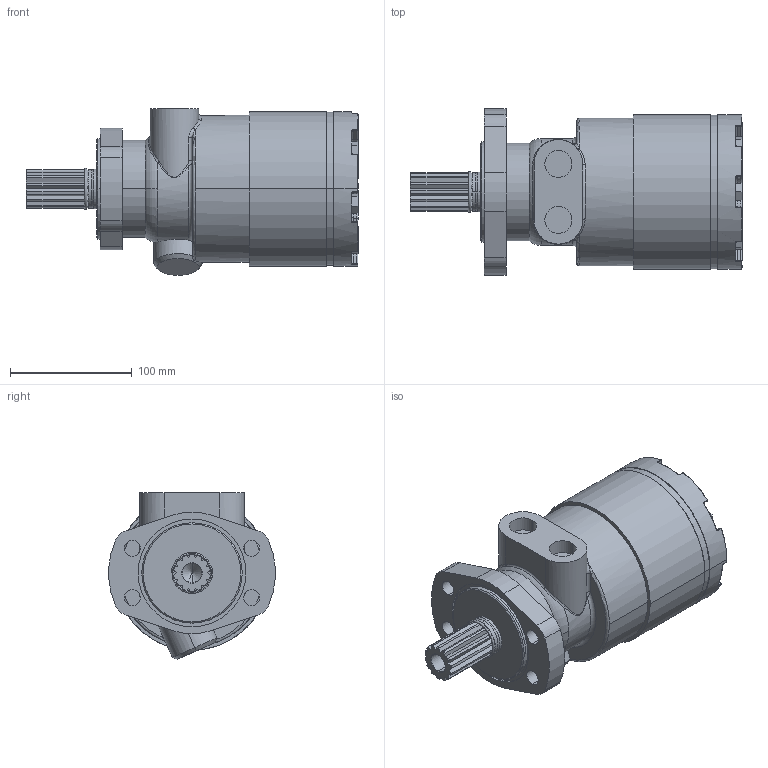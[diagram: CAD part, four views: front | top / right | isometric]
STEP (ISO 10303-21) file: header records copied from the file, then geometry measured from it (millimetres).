
FILE_DESCRIPTION((''),'2;1');
FILE_NAME('40662','2014-02-14T',('carefree'),(''),'PRO/ENGINEER BY PARAMETRIC TECHNOLOGY CORPORATION, 2005030','PRO/ENGINEER BY PARAMETRIC TECHNOLOGY CORPORATION, 2005030','');
FILE_SCHEMA(('CONFIG_CONTROL_DESIGN'));
Length unit declared in the file: millimetre
Products named in the file (1): 40662
Bounding box: 273 x 136.58 x 137.08 mm (x, y, z)
Volume: 2322011.3 mm3; surface area: 134100.8 mm2
Topology: 1 solids, 1 shells, 359 faces, 939 edges, 571 vertices
Faces by surface type: plane 135, cylinder 111, torus 51, bspline 38, cone 24
Entity records: 14481 total; most frequent: CARTESIAN_POINT 5841, ORIENTED_EDGE 1874, DIRECTION 1742, EDGE_CURVE 937, AXIS2_PLACEMENT_3D 657, VERTEX_POINT 571, VECTOR 428, LINE 428
